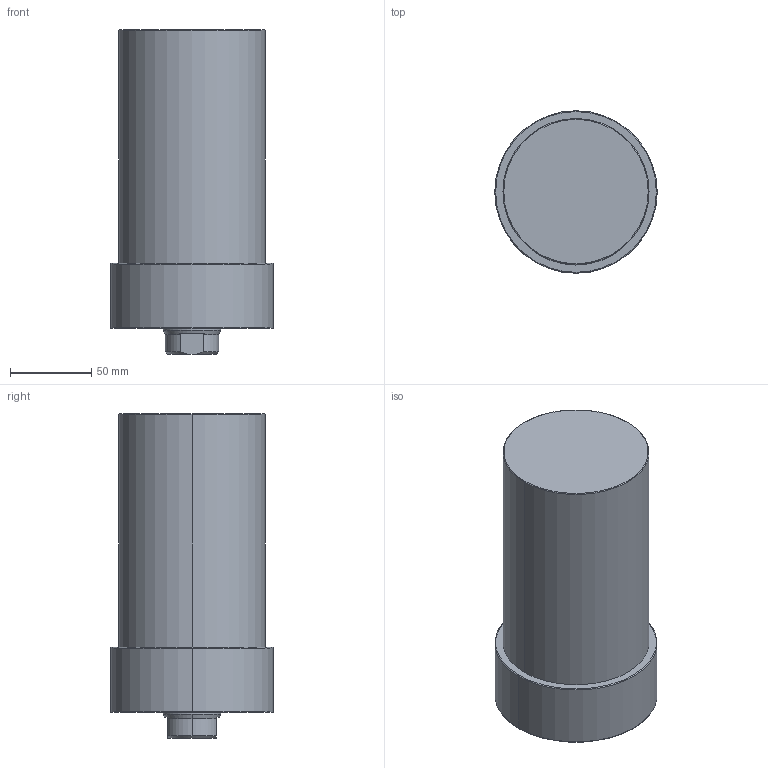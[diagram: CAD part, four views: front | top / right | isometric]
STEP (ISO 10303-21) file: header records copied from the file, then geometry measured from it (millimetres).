
FILE_DESCRIPTION (( 'STEP AP203' ), '1' );
FILE_NAME ('CLLU-090GA-100.STEP', '2020-01-13T03:36:37', ( '' ), ( '' ), 'SwSTEP 2.0', 'SolidWorks 2015', '' );
FILE_SCHEMA (( 'CONFIG_CONTROL_DESIGN' ));
Length unit declared in the file: millimetre
Products named in the file (1): CLLU-090GA-100
Bounding box: 100 x 100 x 200 mm (x, y, z)
Volume: 1223985.6 mm3; surface area: 76192 mm2
Topology: 1 solids, 1 shells, 64 faces, 143 edges, 80 vertices
Faces by surface type: cone 25, cylinder 23, plane 10, torus 6
Entity records: 1809 total; most frequent: DIRECTION 330, CARTESIAN_POINT 322, ORIENTED_EDGE 266, AXIS2_PLACEMENT_3D 140, EDGE_CURVE 133, VERTEX_POINT 80, CIRCLE 75, EDGE_LOOP 73
